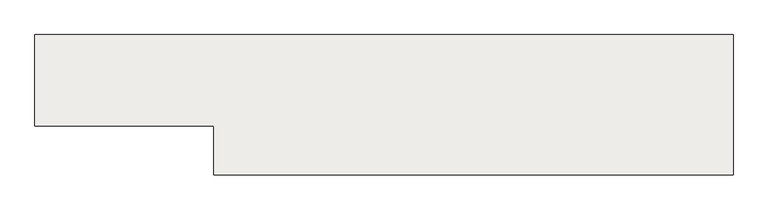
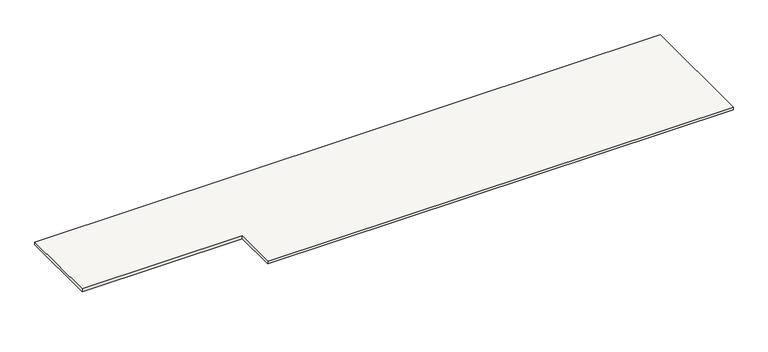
"""IFC4 building model written with IfcOpenShell, lengths in millimetres: slab geometry, Sol-02 - dalle béton 20cm."""

from ifc_helpers import new_model, si_unit, frame, origin, place, context, project, spatial, polyline, outline, extrude, source, transform, mapped, element, save


def slab_db764816(model_context):
    return source(origin(), model_context, "Body", "SweptSolid", [
        extrude(outline(polyline([(-47679.998776, -5223.9850099), (-47679.998776, 500.0), (-3899.9988284, 500.0), (-3899.9988284, -8300.4850099), (-36479.9987968, -8300.4850099), (-36479.9987968, -5223.9850099), (-47679.998776, -5223.9850099)])), frame((0.0, 0.0, -200.0), z_axis=(0.0, 0.0, 1.0), x_axis=(1.0, 0.0, 0.0)), (0.0, 0.0, 1.0), 200.0),
    ])


if __name__ == "__main__":
    model = new_model("IFC4")
    model_context = context("Model", 3, world=origin())
    ifc_project = project(units=[si_unit("LENGTHUNIT", "METRE", prefix="MILLI")], contexts=[model_context])
    site = spatial("IfcSite", under=ifc_project)
    building = spatial("IfcBuilding", under=site)
    placement = place(None, origin())
    slab_shape = slab_db764816(model_context)
    element("IfcSlab", 1, ObjectType="Sol-02 - dalle béton 20cm", at=placement, inside=building, context=model_context, shape_type="MappedRepresentation", body=[
        mapped(slab_shape, transform((0.0, 0.0, 0.0), x_axis=(1.0, 0.0, 0.0), y_axis=(0.0, 1.0, 0.0), z_axis=(0.0, 0.0, 1.0))),
    ])
    save(model, "model.ifc")
